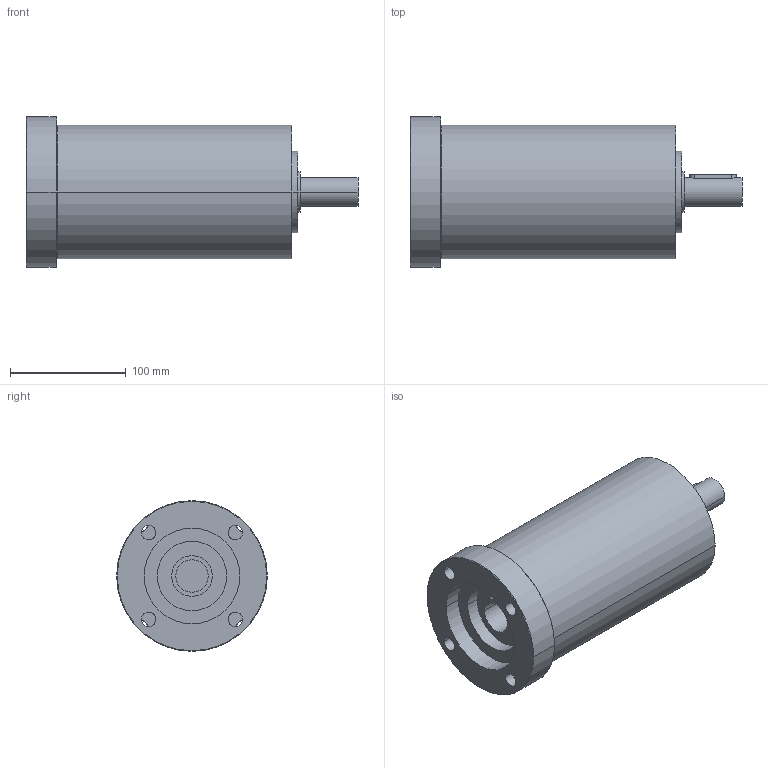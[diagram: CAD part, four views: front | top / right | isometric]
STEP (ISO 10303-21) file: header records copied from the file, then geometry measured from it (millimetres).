
FILE_DESCRIPTION(('CoCreate Modeling STEP Export'),'2;1');
FILE_NAME('GPR125_ig-48-64-80-100-140-196-245-343_25_B14_28_P21.stp','2014-08-26T14:23:00',(''),(''),'CoCreate Modeling STEP processor for AP214 (Solid Model)','CoCreate Modeling 16.00C 25-Feb-2009 (C) Parametric Technology GmbH','');
FILE_SCHEMA(('AUTOMOTIVE_DESIGN { 1 0 10303 214 1 1 1 1 }'));
Length unit declared in the file: millimetre
Products named in the file (2): GPR125_ig-48-64-80-100-140-196-245-343_25_B14_28_P21
Assembly tree (1 placements, depth 2):
  GPR125_ig-48-64-80-100-140-196-245-343_25_B14_28_P21
    GPR125_ig-48-64-80-100-140-196-245-343_25_B14_28_P21
Bounding box: 286.5 x 130 x 130 mm (x, y, z)
Volume: 2348224.3 mm3; surface area: 134630.1 mm2
Topology: 1 solids, 1 shells, 67 faces, 178 edges, 120 vertices
Faces by surface type: cylinder 38, plane 21, cone 8
Entity records: 1774 total; most frequent: ORIENTED_EDGE 352, CARTESIAN_POINT 330, DIRECTION 232, EDGE_CURVE 176, VERTEX_POINT 120, AXIS2_PLACEMENT_3D 90, EDGE_LOOP 84, FACE_OUTER_BOUND 67
